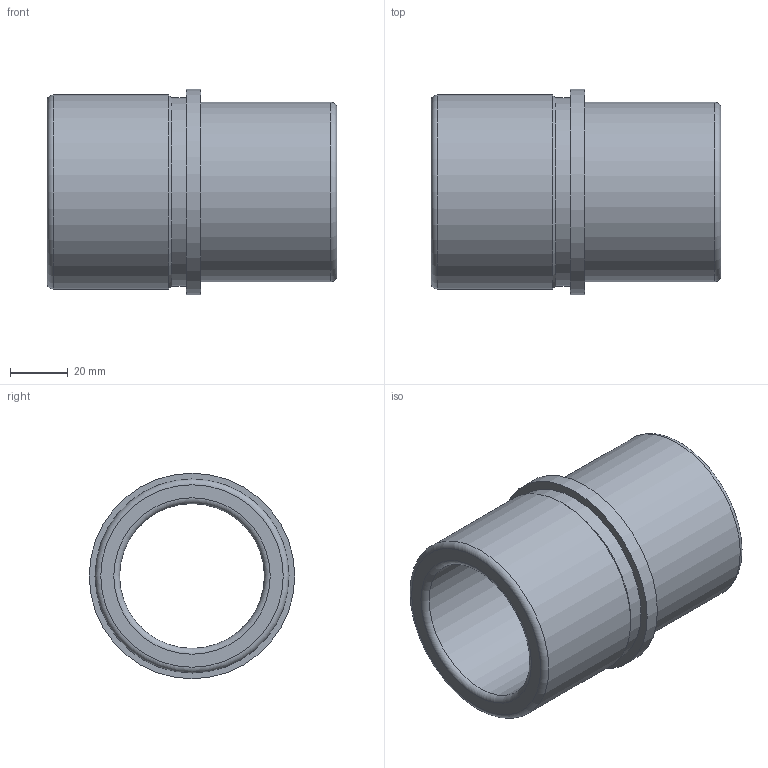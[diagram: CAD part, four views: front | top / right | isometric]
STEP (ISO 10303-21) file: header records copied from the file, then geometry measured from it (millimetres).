
FILE_DESCRIPTION( ( 'STEP AP214' ), '1' );
FILE_NAME( 'p:/temp/worker_57/temp/exporttempdir_5292_56_jiN6m/format_0/WZ - 4053 40 x 100 - 50.stp', '2020-12-06T13:44:18', ( 'License CC BY-ND 4.0' ), ( 'CADENAS' ), ' ', 'PARTsolutions', ' ' );
FILE_SCHEMA( ( 'AUTOMOTIVE_DESIGN { 1 0 10303 214 1 1 1 1 }' ) );
Length unit declared in the file: millimetre
Products named in the file (1): _WZ - 4053 40 x 100 - 50
Bounding box: 100 x 71 x 71 mm (x, y, z)
Volume: 132815.6 mm3; surface area: 39713.7 mm2
Topology: 1 solids, 1 shells, 14 faces, 24 edges, 14 vertices
Faces by surface type: cylinder 5, plane 4, torus 4, cone 1
Full cylindrical faces by diameter (mm): 50 x1, 62 x1, 65 x1, 67 x1, 71 x1
Entity records: 416 total; most frequent: DIRECTION 58, CARTESIAN_POINT 43, AXIS2_PLACEMENT_3D 29, EDGE_LOOP 28, ORIENTED_EDGE 28, FACE_OUTER_BOUND 23, STYLED_ITEM 14, PRESENTATION_STYLE_ASSIGNMENT 14
